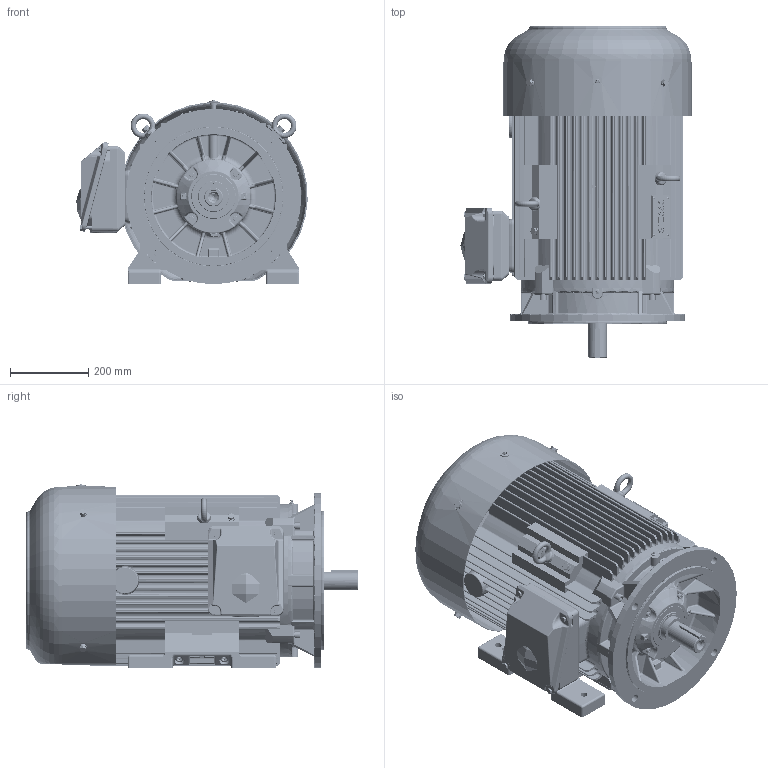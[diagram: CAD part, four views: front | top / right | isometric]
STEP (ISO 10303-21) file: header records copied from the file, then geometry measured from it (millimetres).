
FILE_DESCRIPTION(/* description */ ('Unknown','CAx-IF Rec.Pracs.---Representation and Presentation of Product Manufacturing Information (PMI)---4.0---2014-10-13','CAx-IF Rec.Pracs.---3D Tessellated Geometry---0.4---2014-09-14','2;1'),/* implementation_level */ '2;1');
FILE_NAME(/* name */ 'Silnik NEMA SIE360TSDL2 - do klienta',/* time_stamp */ '2024-07-08T08:50:36+02:00',/* author */ ('Unknown'),/* organization */ ('Unknown'),/* preprocessor_version */ 'ST-DEVELOPER v16.7',/* originating_system */ 'DEX',/* authorisation */ $);
FILE_SCHEMA (('AP242_MANAGED_MODEL_BASED_3D_ENGINEERING_MIM_LF { 1 0 10303 442 20130219 1 4 }'));
Products named in the file (1): Silnik NEMA SIE360TSDL2 - do klienta
Bounding box: 592.82 x 850.7 x 473 mm (x, y, z)
Volume: 43719414.7 mm3; surface area: 6038528 mm2
Topology: 1 solids, 38 shells, 9417 faces, 25281 edges, 15778 vertices
Faces by surface type: plane 5305, cylinder 1945, bspline 890, torus 692, cone 319, sphere 266
Full cylindrical faces by diameter (mm): 1.6 x2, 2.5 x2, 3 x10, 3.5 x4, 4.134 x2, 4.917 x3, 5 x6, 6 x5, 6.3 x1, 6.4 x2, 6.466 x8, 6.647 x12, 8 x26, 8.36 x2, 8.376 x8, 8.5 x1, 8.917 x2, 9 x12, 9.853 x4, 10 x22, 10.106 x9, 10.5 x5, 11.63 x1, 12 x12, 13 x10, 13.546 x4, 13.835 x8, 14 x6, 14.63 x1, 16 x8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
Entity records: 331149 total; most frequent: CARTESIAN_POINT 104060, ORIENTED_EDGE 48146, DIRECTION 43809, EDGE_CURVE 24073, VERTEX_POINT 15401, LINE 15135, VECTOR 15135, AXIS2_PLACEMENT_3D 14337
